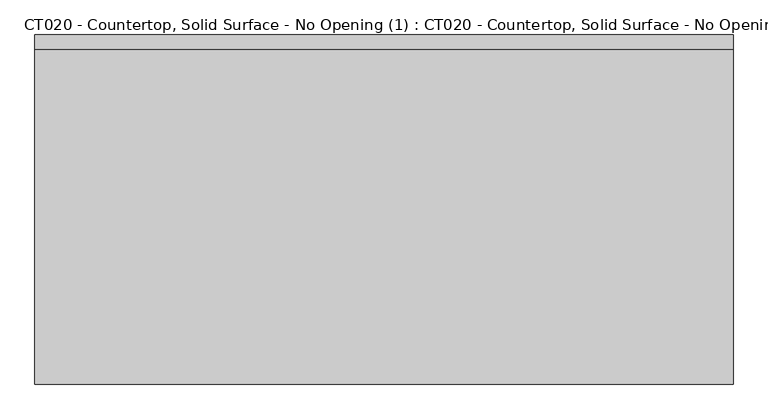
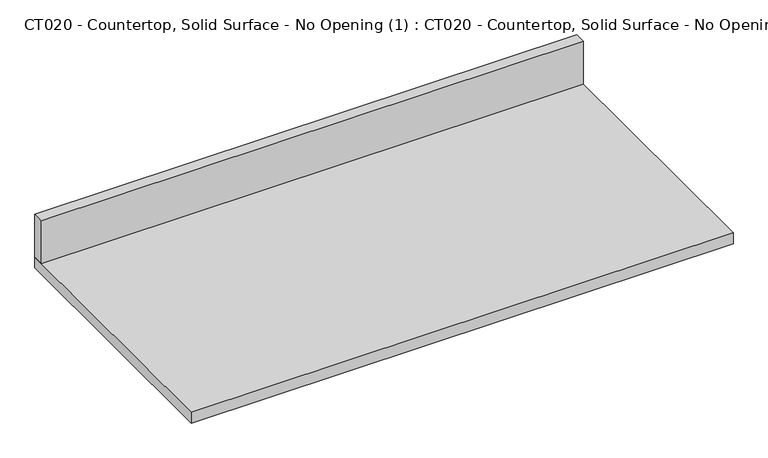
"""IFC4 building model written with IfcOpenShell, lengths in millimetres: proxy geometry, CT020 - Countertop, Solid Surface - No Opening (1) : CT020 - Countertop, Solid Surface - No Opening (1)."""

from ifc_helpers import new_model, si_unit, frame, origin, origin_with_axes, place, context, project, spatial, polyline, outline, extrude, source, transform, mapped, element, save


def ct020_countertop_solid_surface_no_opening_1_ct020_countertop_e1092f7d(model_context):
    return source(origin(), model_context, "Body", "SweptSolid", [
        extrude(outline(polyline([(-609.6, 279.4), (-609.6, 304.8), (609.6, 304.8), (609.6, 279.4), (-609.6, 279.4)])), frame((0.0, 0.0, 25.4), z_axis=(0.0, 0.0, 1.0), x_axis=(1.0, 0.0, 0.0)), (0.0, 0.0, 1.0), 101.6),
        extrude(outline(polyline([(-609.6, -304.8), (-609.6, 304.8), (609.6, 304.8), (609.6, -304.8), (-609.6, -304.8)])), origin_with_axes(), (0.0, 0.0, 1.0), 25.4),
    ])


if __name__ == "__main__":
    model = new_model("IFC4")
    model_context = context("Model", 3, world=origin())
    ifc_project = project(units=[si_unit("LENGTHUNIT", "METRE", prefix="MILLI")], contexts=[model_context])
    site = spatial("IfcSite", under=ifc_project)
    building = spatial("IfcBuilding", under=site)
    placement = place(None, origin())
    ct020_countertop_solid_surface_no_opening_1_ct020_countertop_shape = ct020_countertop_solid_surface_no_opening_1_ct020_countertop_e1092f7d(model_context)
    element("IfcBuildingElementProxy", 1, Name="CT020 - Countertop, Solid Surface - No Opening (1) : CT020 - Countertop, Solid Surface - No Opening (1)", ObjectType="CT020 - Countertop, Solid Surface - No Opening (1) : CT020 - Countertop, Solid Surface - No Opening (1)", at=placement, inside=building, context=model_context, shape_type="MappedRepresentation", body=[
        mapped(ct020_countertop_solid_surface_no_opening_1_ct020_countertop_shape, transform((0.0, 0.0, 0.0), x_axis=(1.0, 0.0, 0.0), y_axis=(0.0, 1.0, 0.0), z_axis=(0.0, 0.0, 1.0))),
    ])
    save(model, "model.ifc")
